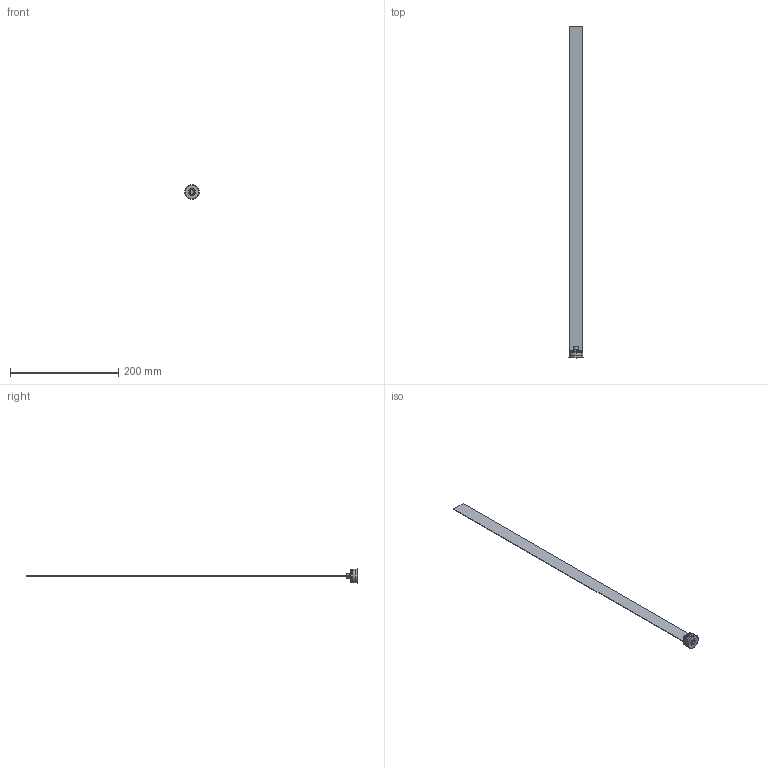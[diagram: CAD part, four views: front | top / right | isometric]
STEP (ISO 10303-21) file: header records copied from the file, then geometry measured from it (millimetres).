
FILE_DESCRIPTION (( 'STEP AP203' ), '1' );
FILE_NAME ('RL-25Fx600-24,5.STEP', '2015-12-04T07:29:45', ( 'Balzi' ), ( '' ), 'SwSTEP 2.0', 'SolidWorks 2015', '' );
FILE_SCHEMA (( 'CONFIG_CONTROL_DESIGN' ));
Length unit declared in the file: millimetre
Products named in the file (1): RL-25Fx600-24,5
Bounding box: 26.5 x 614 x 26.5 mm (x, y, z)
Volume: 21654.3 mm3; surface area: 33559.7 mm2
Topology: 1 solids, 1 shells, 75 faces, 177 edges, 109 vertices
Faces by surface type: plane 31, cone 19, cylinder 17, torus 8
Entity records: 2245 total; most frequent: CARTESIAN_POINT 412, DIRECTION 386, ORIENTED_EDGE 354, EDGE_CURVE 177, AXIS2_PLACEMENT_3D 147, VERTEX_POINT 109, VECTOR 92, LINE 92
